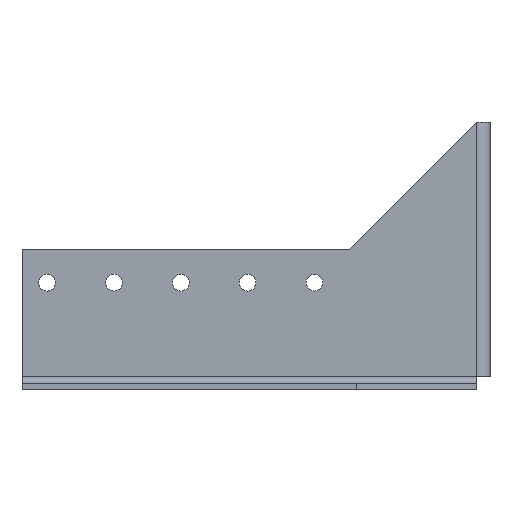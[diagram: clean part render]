
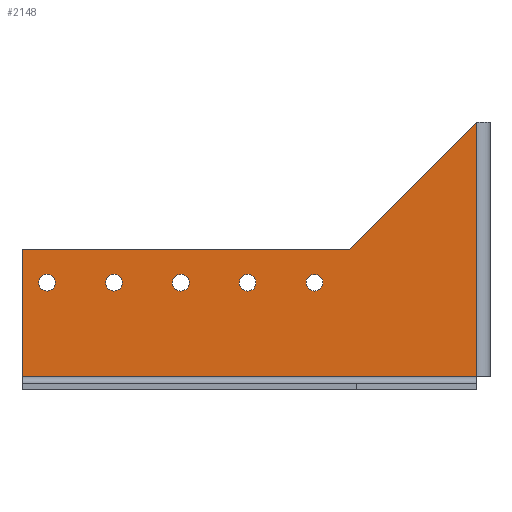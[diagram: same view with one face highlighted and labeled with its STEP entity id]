
A CAD part, left-side view. The second image highlights one B-rep face of the part: STEP entity #2148.
In plain terms, the highlighted planar face has unit normal (-1, 0, 0).
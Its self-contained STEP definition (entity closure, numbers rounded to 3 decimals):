
#2 = AXIS2_PLACEMENT_3D ( 'NONE', #4218, #1444, #1821 ) ;
#13 = DIRECTION ( 'NONE',  ( 0., -0.707, 0.707 ) ) ;
#74 = CARTESIAN_POINT ( 'NONE',  ( -2., 2., -76. ) ) ;
#96 = DIRECTION ( 'NONE',  ( 0., -1., 0. ) ) ;
#112 = VERTEX_POINT ( 'NONE', #2444 ) ;
#116 = DIRECTION ( 'NONE',  ( 1., 0., 0. ) ) ;
#117 = EDGE_CURVE ( 'NONE', #1179, #2106, #2742, .T. ) ;
#124 = CARTESIAN_POINT ( 'NONE',  ( -2., 138., -38. ) ) ;
#143 = AXIS2_PLACEMENT_3D ( 'NONE', #3560, #2230, #767 ) ;
#146 = VERTEX_POINT ( 'NONE', #74 ) ;
#207 = CARTESIAN_POINT ( 'NONE',  ( -2., 138., -76. ) ) ;
#212 = CARTESIAN_POINT ( 'NONE',  ( -2., 40., -38. ) ) ;
#262 = ORIENTED_EDGE ( 'NONE', *, *, #1940, .F. ) ;
#300 = DIRECTION ( 'NONE',  ( 0., -1., 0. ) ) ;
#349 = VERTEX_POINT ( 'NONE', #4329 ) ;
#409 = ORIENTED_EDGE ( 'NONE', *, *, #3877, .T. ) ;
#410 = VECTOR ( 'NONE', #4242, 1000. ) ;
#416 = AXIS2_PLACEMENT_3D ( 'NONE', #3200, #3512, #3894 ) ;
#447 = CARTESIAN_POINT ( 'NONE',  ( -2., 130.5, -48. ) ) ;
#487 = DIRECTION ( 'NONE',  ( 0., 0., 1. ) ) ;
#533 = EDGE_LOOP ( 'NONE', ( #3232, #3698 ) ) ;
#609 = FACE_OUTER_BOUND ( 'NONE', #1024, .T. ) ;
#664 = AXIS2_PLACEMENT_3D ( 'NONE', #3213, #762, #96 ) ;
#697 = EDGE_CURVE ( 'NONE', #1655, #1875, #2349, .T. ) ;
#720 = EDGE_CURVE ( 'NONE', #2481, #1954, #994, .T. ) ;
#762 = DIRECTION ( 'NONE',  ( 1., 0., 0. ) ) ;
#767 = DIRECTION ( 'NONE',  ( 0., -1., 0. ) ) ;
#816 = DIRECTION ( 'NONE',  ( 0., -1., 0. ) ) ;
#826 = CARTESIAN_POINT ( 'NONE',  ( -2., 50.5, -48. ) ) ;
#855 = DIRECTION ( 'NONE',  ( 1., 0., 0. ) ) ;
#858 = VERTEX_POINT ( 'NONE', #212 ) ;
#882 = ORIENTED_EDGE ( 'NONE', *, *, #2118, .F. ) ;
#934 = CARTESIAN_POINT ( 'NONE',  ( -2., 73., -48. ) ) ;
#935 = EDGE_LOOP ( 'NONE', ( #2284, #2640 ) ) ;
#994 = CIRCLE ( 'NONE', #2715, 2.5 ) ;
#1024 = EDGE_LOOP ( 'NONE', ( #409, #882, #4356, #262, #2489 ) ) ;
#1033 = CARTESIAN_POINT ( 'NONE',  ( -2., 48., -48. ) ) ;
#1057 = FACE_BOUND ( 'NONE', #935, .T. ) ;
#1072 = VERTEX_POINT ( 'NONE', #1033 ) ;
#1076 = CARTESIAN_POINT ( 'NONE',  ( -2., 93., -48. ) ) ;
#1099 = VERTEX_POINT ( 'NONE', #3099 ) ;
#1179 = VERTEX_POINT ( 'NONE', #2071 ) ;
#1225 = LINE ( 'NONE', #2166, #410 ) ;
#1232 = FACE_BOUND ( 'NONE', #533, .T. ) ;
#1254 = AXIS2_PLACEMENT_3D ( 'NONE', #4188, #1409, #3502 ) ;
#1278 = LINE ( 'NONE', #2091, #1825 ) ;
#1295 = EDGE_CURVE ( 'NONE', #1099, #1516, #4201, .T. ) ;
#1409 = DIRECTION ( 'NONE',  ( -1., 0., 0. ) ) ;
#1442 = CIRCLE ( 'NONE', #3808, 2.5 ) ;
#1444 = DIRECTION ( 'NONE',  ( 1., 0., 0. ) ) ;
#1516 = VERTEX_POINT ( 'NONE', #1842 ) ;
#1566 = CARTESIAN_POINT ( 'NONE',  ( -2., 0., -38. ) ) ;
#1568 = EDGE_CURVE ( 'NONE', #1875, #1655, #2461, .T. ) ;
#1574 = CARTESIAN_POINT ( 'NONE',  ( -2., 2., 0. ) ) ;
#1655 = VERTEX_POINT ( 'NONE', #2928 ) ;
#1684 = VECTOR ( 'NONE', #4343, 1000. ) ;
#1821 = DIRECTION ( 'NONE',  ( 0., -1., 0. ) ) ;
#1825 = VECTOR ( 'NONE', #13, 1000. ) ;
#1839 = CARTESIAN_POINT ( 'NONE',  ( -2., 138., 0. ) ) ;
#1842 = CARTESIAN_POINT ( 'NONE',  ( -2., 113., -48. ) ) ;
#1875 = VERTEX_POINT ( 'NONE', #2229 ) ;
#1940 = EDGE_CURVE ( 'NONE', #2533, #3862, #2950, .T. ) ;
#1954 = VERTEX_POINT ( 'NONE', #3218 ) ;
#2071 = CARTESIAN_POINT ( 'NONE',  ( -2., 88., -48. ) ) ;
#2081 = EDGE_CURVE ( 'NONE', #1516, #1099, #3427, .T. ) ;
#2091 = CARTESIAN_POINT ( 'NONE',  ( -2., 1., 1. ) ) ;
#2106 = VERTEX_POINT ( 'NONE', #1076 ) ;
#2118 = EDGE_CURVE ( 'NONE', #858, #349, #1278, .T. ) ;
#2132 = EDGE_LOOP ( 'NONE', ( #2379, #3174 ) ) ;
#2148 = ADVANCED_FACE ( 'NONE', ( #2350, #1057, #2156, #1232, #2627, #609 ), #3483, .T. ) ;
#2156 = FACE_BOUND ( 'NONE', #2538, .T. ) ;
#2166 = CARTESIAN_POINT ( 'NONE',  ( -2., 138., -76. ) ) ;
#2229 = CARTESIAN_POINT ( 'NONE',  ( -2., 133., -48. ) ) ;
#2230 = DIRECTION ( 'NONE',  ( 1., 0., 0. ) ) ;
#2258 = EDGE_CURVE ( 'NONE', #146, #2533, #1225, .T. ) ;
#2284 = ORIENTED_EDGE ( 'NONE', *, *, #720, .T. ) ;
#2287 = AXIS2_PLACEMENT_3D ( 'NONE', #826, #3896, #3249 ) ;
#2349 = CIRCLE ( 'NONE', #2837, 2.5 ) ;
#2350 = FACE_BOUND ( 'NONE', #4202, .T. ) ;
#2379 = ORIENTED_EDGE ( 'NONE', *, *, #1568, .T. ) ;
#2411 = VECTOR ( 'NONE', #487, 1000. ) ;
#2420 = EDGE_CURVE ( 'NONE', #1954, #2481, #1442, .T. ) ;
#2444 = CARTESIAN_POINT ( 'NONE',  ( -2., 53., -48. ) ) ;
#2461 = CIRCLE ( 'NONE', #3699, 2.5 ) ;
#2481 = VERTEX_POINT ( 'NONE', #934 ) ;
#2489 = ORIENTED_EDGE ( 'NONE', *, *, #2258, .F. ) ;
#2533 = VERTEX_POINT ( 'NONE', #207 ) ;
#2538 = EDGE_LOOP ( 'NONE', ( #4180, #3478 ) ) ;
#2578 = CARTESIAN_POINT ( 'NONE',  ( -2., 70.5, -48. ) ) ;
#2583 = CARTESIAN_POINT ( 'NONE',  ( -2., 70.5, -48. ) ) ;
#2600 = AXIS2_PLACEMENT_3D ( 'NONE', #3663, #2997, #300 ) ;
#2627 = FACE_BOUND ( 'NONE', #2132, .T. ) ;
#2640 = ORIENTED_EDGE ( 'NONE', *, *, #2420, .T. ) ;
#2715 = AXIS2_PLACEMENT_3D ( 'NONE', #2583, #855, #3277 ) ;
#2742 = CIRCLE ( 'NONE', #664, 2.5 ) ;
#2837 = AXIS2_PLACEMENT_3D ( 'NONE', #3289, #3990, #2935 ) ;
#2928 = CARTESIAN_POINT ( 'NONE',  ( -2., 128., -48. ) ) ;
#2935 = DIRECTION ( 'NONE',  ( 0., -1., 0. ) ) ;
#2950 = LINE ( 'NONE', #1839, #2411 ) ;
#2997 = DIRECTION ( 'NONE',  ( 1., 0., 0. ) ) ;
#3094 = CIRCLE ( 'NONE', #2287, 2.5 ) ;
#3099 = CARTESIAN_POINT ( 'NONE',  ( -2., 108., -48. ) ) ;
#3174 = ORIENTED_EDGE ( 'NONE', *, *, #697, .T. ) ;
#3200 = CARTESIAN_POINT ( 'NONE',  ( -2., 110.5, -48. ) ) ;
#3213 = CARTESIAN_POINT ( 'NONE',  ( -2., 90.5, -48. ) ) ;
#3218 = CARTESIAN_POINT ( 'NONE',  ( -2., 68., -48. ) ) ;
#3232 = ORIENTED_EDGE ( 'NONE', *, *, #2081, .T. ) ;
#3249 = DIRECTION ( 'NONE',  ( 0., -1., 0. ) ) ;
#3269 = DIRECTION ( 'NONE',  ( 1., 0., 0. ) ) ;
#3277 = DIRECTION ( 'NONE',  ( 0., -1., 0. ) ) ;
#3289 = CARTESIAN_POINT ( 'NONE',  ( -2., 130.5, -48. ) ) ;
#3310 = LINE ( 'NONE', #1566, #1684 ) ;
#3325 = EDGE_CURVE ( 'NONE', #3862, #858, #3310, .T. ) ;
#3427 = CIRCLE ( 'NONE', #2, 2.5 ) ;
#3454 = EDGE_CURVE ( 'NONE', #2106, #1179, #3737, .T. ) ;
#3478 = ORIENTED_EDGE ( 'NONE', *, *, #117, .T. ) ;
#3483 = PLANE ( 'NONE',  #1254 ) ;
#3502 = DIRECTION ( 'NONE',  ( 0., -1., 0. ) ) ;
#3512 = DIRECTION ( 'NONE',  ( 1., 0., 0. ) ) ;
#3560 = CARTESIAN_POINT ( 'NONE',  ( -2., 50.5, -48. ) ) ;
#3610 = DIRECTION ( 'NONE',  ( 0., -1., 0. ) ) ;
#3638 = ORIENTED_EDGE ( 'NONE', *, *, #3778, .T. ) ;
#3646 = DIRECTION ( 'NONE',  ( 0., 0., 1. ) ) ;
#3663 = CARTESIAN_POINT ( 'NONE',  ( -2., 90.5, -48. ) ) ;
#3679 = LINE ( 'NONE', #1574, #4022 ) ;
#3698 = ORIENTED_EDGE ( 'NONE', *, *, #1295, .T. ) ;
#3699 = AXIS2_PLACEMENT_3D ( 'NONE', #447, #116, #816 ) ;
#3737 = CIRCLE ( 'NONE', #2600, 2.5 ) ;
#3778 = EDGE_CURVE ( 'NONE', #1072, #112, #3850, .T. ) ;
#3806 = EDGE_CURVE ( 'NONE', #112, #1072, #3094, .T. ) ;
#3808 = AXIS2_PLACEMENT_3D ( 'NONE', #2578, #3269, #3610 ) ;
#3850 = CIRCLE ( 'NONE', #143, 2.5 ) ;
#3862 = VERTEX_POINT ( 'NONE', #124 ) ;
#3877 = EDGE_CURVE ( 'NONE', #146, #349, #3679, .T. ) ;
#3894 = DIRECTION ( 'NONE',  ( 0., -1., 0. ) ) ;
#3896 = DIRECTION ( 'NONE',  ( 1., 0., 0. ) ) ;
#3990 = DIRECTION ( 'NONE',  ( 1., 0., 0. ) ) ;
#4022 = VECTOR ( 'NONE', #3646, 1000. ) ;
#4113 = ORIENTED_EDGE ( 'NONE', *, *, #3806, .T. ) ;
#4180 = ORIENTED_EDGE ( 'NONE', *, *, #3454, .T. ) ;
#4188 = CARTESIAN_POINT ( 'NONE',  ( -2., 0., 0. ) ) ;
#4201 = CIRCLE ( 'NONE', #416, 2.5 ) ;
#4202 = EDGE_LOOP ( 'NONE', ( #4113, #3638 ) ) ;
#4218 = CARTESIAN_POINT ( 'NONE',  ( -2., 110.5, -48. ) ) ;
#4242 = DIRECTION ( 'NONE',  ( 0., 1., 0. ) ) ;
#4329 = CARTESIAN_POINT ( 'NONE',  ( -2., 2., 0. ) ) ;
#4343 = DIRECTION ( 'NONE',  ( 0., -1., 0. ) ) ;
#4356 = ORIENTED_EDGE ( 'NONE', *, *, #3325, .F. ) ;
